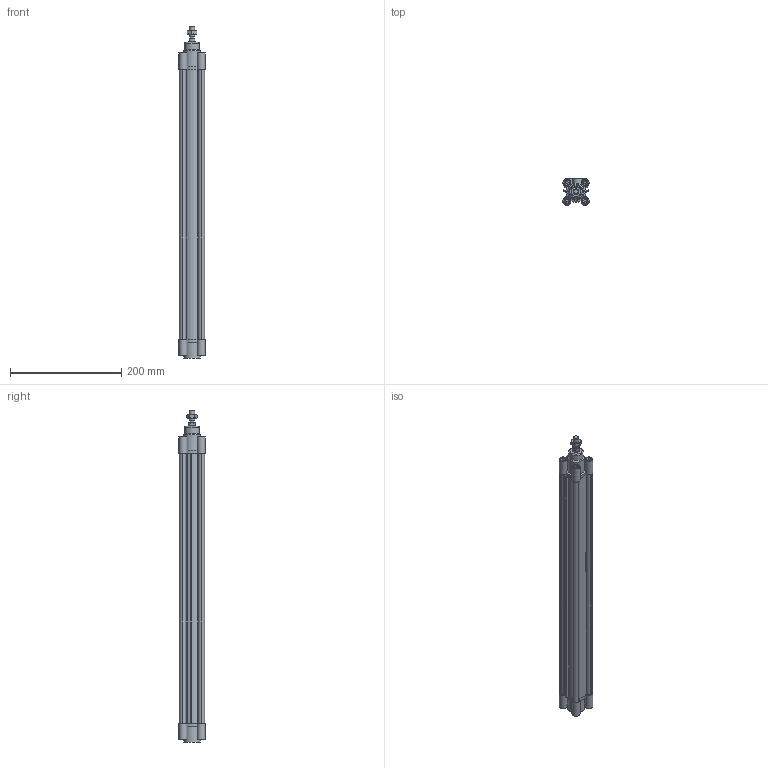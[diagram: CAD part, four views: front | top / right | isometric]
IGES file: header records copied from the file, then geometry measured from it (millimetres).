
Global section: file name: No Iges File Name specified; native system: Autodesk Inventor 2012; preprocessor: AutoDesk Inventor Iges Exporter R2012; author: pilonfr1; date: 20120128.095054; units: millimetre
Bounding box: 47 x 47 x 596.5 mm (x, y, z)
Volume: 454268.4 mm3; surface area: 284600.9 mm2
Topology: 5 solids, 5 shells, 316 faces, 788 edges, 522 vertices
Faces by surface type: plane 200, cylinder 54, revolution 39, cone 22, torus 1
Full cylindrical faces by diameter (mm): 8.8 x1, 10 x9, 11.5 x1, 12 x1, 26 x1, 30 x2, 32 x3
